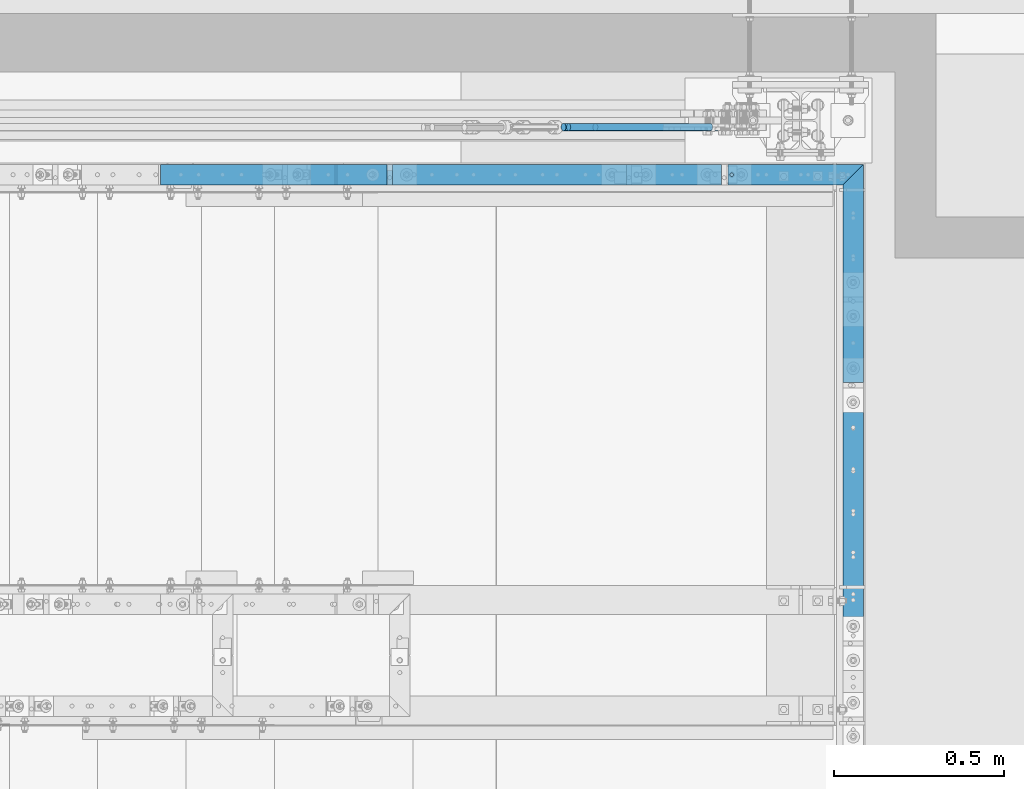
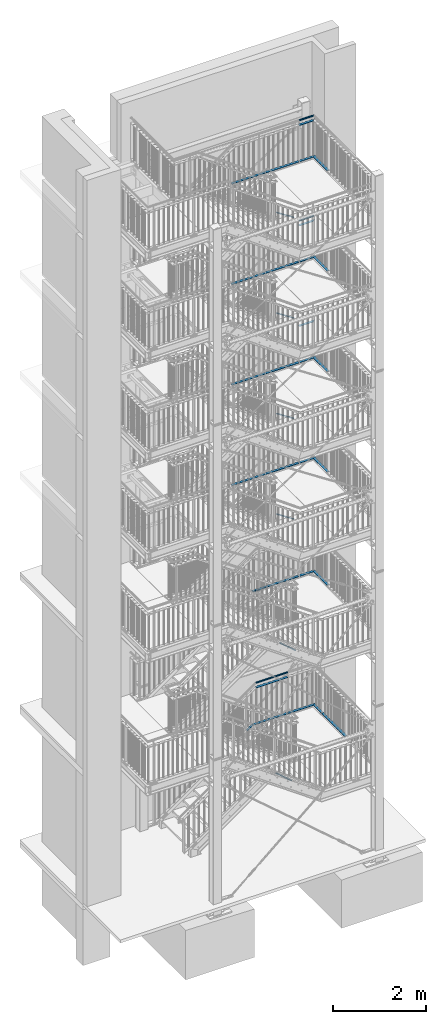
# One storey, part 140 of 817: 31 beams, 7 members, 33 openings.
"""IFC2X3 building model written with IfcOpenShell, lengths in millimetres."""

from ifc_helpers import new_model, entity, si_unit, converted_unit, frame, origin, origin_with_axes, origin_2d, origin_2d_with_axis, place, context, project, spatial, polyline, rectangle, circle, hollow_circle, outline, extrude, clip, halfspace, material, element, save


model = new_model("IFC2X3")

# Units and contexts
model_context = context("Model", 3, precision=1e-09, world=origin_with_axes())
ifc_project = project(units=[si_unit("LENGTHUNIT", "METRE", prefix="MILLI"), si_unit("AREAUNIT", "SQUARE_METRE"), si_unit("VOLUMEUNIT", "CUBIC_METRE"), converted_unit("PLANEANGLEUNIT", "DEGREE", entity("IfcPlaneAngleMeasure", 0.01745329), si_unit("PLANEANGLEUNIT", "RADIAN"), dimensions=[0, 0, 0, 0, 0, 0, 0])], contexts=[model_context])

# Site, building, storey
site_placement = place(None, origin_with_axes())
site = spatial("IfcSite", under=ifc_project, at=site_placement, Name="Cnopf'sche Kinderklinik", CompositionType="ELEMENT")
building_placement = place(site_placement, origin_with_axes())
building = spatial("IfcBuilding", under=site, at=building_placement, Name="Struktur 1", CompositionType="ELEMENT")
storey_placement = place(building_placement, origin_with_axes())
storey = spatial("IfcBuildingStorey", under=building, at=storey_placement, Name="Default Storey", CompositionType="ELEMENT", Elevation=0.0)

# Members
ifc_material = material(Name="S235JR")
for number, where, z_axis, x_axis in (
    (1, (8640.321727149, 7496.736971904, 3708.074383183), (-0.755906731, 0.0, 0.654679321), (-0.654679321, 0.0, -0.755906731)),
    (2, (8601.628734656, 7496.736971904, 7158.990731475), (-0.83600607, 0.0, 0.548720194), (-0.548720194, 0.0, -0.83600607)),
    (3, (8601.477156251, 7496.736971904, 9790.759502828), (-0.83648421, 0.0, 0.547991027), (-0.547991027, 0.0, -0.83648421)),
    (4, (8601.719606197, 7496.736971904, 12418.129336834), (-0.835719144, 0.0, 0.549157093), (-0.549157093, 0.0, -0.835719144)),
    (5, (8601.264681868, 7496.736971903, 15052.435320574), (-0.837153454, 0.0, 0.546968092), (-0.546968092, 0.0, -0.837153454)),
    (6, (8547.510615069, 7496.736971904, 334.785043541), (-0.757867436, 0.0, 0.652408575), (-0.652408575, 0.0, -0.757867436)),
):
    element("IfcMember", number, at=place(None, frame(where, z_axis=z_axis, x_axis=x_axis)), inside=storey, material=ifc_material, Name="-", ObjectType="-", context=model_context, shape_type="SweptSolid", body=[
        extrude(circle(Radius=11.0, at=origin_2d()), origin(), (0.0, 0.0, 1.0), 500.0),
    ])
member_placement = place(None, frame((7358.266977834, 7356.736971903, 2145.321492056), z_axis=(-0.814635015, 0.0, -0.579973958), x_axis=(0.579973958, 0.0, -0.814635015)))
element("IfcMember", 7, at=member_placement, inside=storey, material=ifc_material, Name="Railing_Kneerail_Stair#3", ObjectType="Railing_Kneerail_Stair#3", context=model_context, shape_type="SweptSolid", body=[
    extrude(rectangle(XDim=10.0, YDim=60.0, at=origin_2d()), origin(), (0.0, 0.0, -1.0), 172.084130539),
])

# Beam, opening
beam_1_placement = place(None, frame((7501.352605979, 7356.736971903, 2246.0526312), z_axis=(-1.0, 0.0, 0.0), x_axis=(0.0, 0.0, -1.0)))
beam_1 = element("IfcBeam", 8, at=beam_1_placement, inside=storey, material=ifc_material, Name="Railing_Kneerail_Landing#4", ObjectType="Railing_Kneerail_Landing#4", context=model_context, shape_type="SweptSolid", body=[
    extrude(rectangle(XDim=10.0, YDim=60.0, at=origin_2d()), origin(), (0.0, 0.0, -1.0), 859.59161979),
])
opening_1_placement = place(beam_1_placement, frame((60.0, 0.0, -859.59161979), z_axis=(-1.0, 0.0, 0.0), x_axis=(0.0, 0.0, -1.0)))
element("IfcOpeningElement", 9, at=opening_1_placement, cuts=beam_1, ObjectType="Opening", context=model_context, shape_type="SweptSolid", body=[
    extrude(outline(polyline([(7.501, -30.001), (7.501, 30.001), (-7.501, 30.001), (-7.501, -30.001), (7.501, -30.001)])), origin(), (0.0, 0.0, 1.0), 120.0),
])

beam_2_placement = place(None, frame((8371.444225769, 7356.736971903, 2246.0526312), z_axis=(-1.0, 0.0, 0.0), x_axis=(0.0, 0.0, -1.0)))
beam_2 = element("IfcBeam", 10, at=beam_2_placement, inside=storey, material=ifc_material, Name="Railing_Kneerail_Landing#5", ObjectType="Railing_Kneerail_Landing#5", context=model_context, shape_type="Clipping", body=[
    clip(extrude(rectangle(XDim=10.0, YDim=60.0, at=origin_2d()), origin(), (0.0, 0.0, -1.0), 693.28080356), halfspace(frame((2246.0526312, 8189.224480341, 7538.95671733), z_axis=(0.0, -0.707106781, 0.707106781), x_axis=(0.0, 0.707106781, 0.707106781)), True)),
])
opening_2_placement = place(beam_2_placement, frame((5.5, 0.0, -11.999999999), z_axis=(-1.0, 0.0, 0.0), x_axis=(0.0, 0.0, -1.0)))
element("IfcOpeningElement", 11, at=opening_2_placement, cuts=beam_2, ObjectType="Opening", context=model_context, shape_type="SweptSolid", body=[
    extrude(circle(Radius=5.001, at=origin_2d_with_axis()), origin(), (0.0, 0.0, 1.0), 11.0),
])

beam_3_placement = place(None, frame((9021.713402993, 7399.748598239, 2246.0526312), z_axis=(0.0, 1.0, 0.0), x_axis=(0.0, 0.0, -1.0)))
beam_3 = element("IfcBeam", 12, at=beam_3_placement, inside=storey, material=ifc_material, Name="Railing_Kneerail_Landing#6", ObjectType="Railing_Kneerail_Landing#6", context=model_context, shape_type="Clipping", body=[
    clip(extrude(rectangle(XDim=10.0, YDim=60.0, at=origin_2d()), origin(), (0.0, 0.0, -1.0), 410.319566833), halfspace(frame((2246.0526312, 8189.224480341, -8232.23752089), z_axis=(0.0, -0.707106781, -0.707106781), x_axis=(0.0, -0.707106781, 0.707106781)), True)),
])
opening_3_placement = place(beam_3_placement, frame((60.0, 0.0, -410.319566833), z_axis=(-1.0, 0.0, 0.0), x_axis=(0.0, -1.0, 0.0)))
element("IfcOpeningElement", 13, at=opening_3_placement, cuts=beam_3, ObjectType="Opening", context=model_context, shape_type="SweptSolid", body=[
    extrude(outline(polyline([(-30.001, -7.501), (30.001, -7.501), (30.001, 7.501), (-30.001, 7.501), (-30.001, -7.501)])), origin(), (0.0, 0.0, 1.0), 120.0),
])

# Beam, openings
beam_4_placement = place(None, frame((9021.713402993, 6989.429031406, 2246.0526312), z_axis=(0.0, 1.0, 0.0), x_axis=(0.0, 0.0, -1.0)))
beam_4 = element("IfcBeam", 14, at=beam_4_placement, inside=storey, material=ifc_material, Name="Railing_Kneerail_Landing#7", ObjectType="Railing_Kneerail_Landing#7", context=model_context, shape_type="SweptSolid", body=[
    extrude(rectangle(XDim=10.0, YDim=60.0, at=origin_2d()), origin(), (0.0, 0.0, -1.0), 1013.077117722),
])
opening_4_placement = place(beam_4_placement, frame((60.0, 0.0, -1013.077117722), z_axis=(-1.0, 0.0, 0.0), x_axis=(0.0, -1.0, 0.0)))
element("IfcOpeningElement", 15, at=opening_4_placement, cuts=beam_4, ObjectType="Opening", context=model_context, shape_type="SweptSolid", body=[
    extrude(outline(polyline([(-30.001, 1005.576117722), (30.001, 1005.576117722), (30.001, 1020.578117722), (-30.001, 1020.578117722), (-30.001, 1005.576117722)])), origin(), (0.0, 0.0, 1.0), 120.0),
])
opening_5_placement = place(beam_4_placement, frame((60.0, 0.0, -1013.077117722), z_axis=(-1.0, 0.0, 0.0), x_axis=(0.0, -1.0, 0.0)))
element("IfcOpeningElement", 16, at=opening_5_placement, cuts=beam_4, ObjectType="Opening", context=model_context, shape_type="SweptSolid", body=[
    extrude(outline(polyline([(-30.001, -7.501), (30.001, -7.501), (30.001, 7.501), (-30.001, 7.501), (-30.001, -7.501)])), origin(), (0.0, 0.0, 1.0), 120.0),
])

# Beam, opening
beam_5_placement = place(None, frame((7500.836877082, 7356.736971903, 5739.8947367), z_axis=(-1.0, 0.0, 0.0), x_axis=(0.0, 0.0, -1.0)))
beam_5 = element("IfcBeam", 17, at=beam_5_placement, inside=storey, material=ifc_material, Name="Railing_Kneerail_Landing#5", ObjectType="Railing_Kneerail_Landing#5", context=model_context, shape_type="SweptSolid", body=[
    extrude(rectangle(XDim=10.0, YDim=60.0, at=origin_2d()), origin(), (0.0, 0.0, -1.0), 155.876954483),
])
opening_6_placement = place(beam_5_placement, frame((60.0, 0.0, -155.876954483), z_axis=(-1.0, 0.0, 0.0), x_axis=(0.0, 0.0, -1.0)))
element("IfcOpeningElement", 18, at=opening_6_placement, cuts=beam_5, ObjectType="Opening", context=model_context, shape_type="SweptSolid", body=[
    extrude(outline(polyline([(7.501, -30.001), (7.501, 30.001), (-7.501, 30.001), (-7.501, -30.001), (7.501, -30.001)])), origin(), (0.0, 0.0, 1.0), 120.0),
])

# Beam, openings
beam_6_placement = place(None, frame((7656.713831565, 7356.736971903, 5739.8947367), z_axis=(-1.0, 0.0, 0.0), x_axis=(0.0, 0.0, -1.0)))
beam_6 = element("IfcBeam", 19, at=beam_6_placement, inside=storey, material=ifc_material, Name="Railing_Kneerail_Landing#6", ObjectType="Railing_Kneerail_Landing#6", context=model_context, shape_type="SweptSolid", body=[
    extrude(rectangle(XDim=10.0, YDim=60.0, at=origin_2d()), origin(), (0.0, 0.0, -1.0), 985.000142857),
])
opening_7_placement = place(beam_6_placement, frame((60.0, 0.0, -985.000142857), z_axis=(-1.0, 0.0, 0.0), x_axis=(0.0, 0.0, -1.0)))
element("IfcOpeningElement", 20, at=opening_7_placement, cuts=beam_6, ObjectType="Opening", context=model_context, shape_type="SweptSolid", body=[
    extrude(outline(polyline([(-977.499142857, -30.001), (-977.499142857, 30.001), (-992.501142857, 30.001), (-992.501142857, -30.001), (-977.499142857, -30.001)])), origin(), (0.0, 0.0, 1.0), 120.0),
])
opening_8_placement = place(beam_6_placement, frame((60.0, 0.0, -985.000142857), z_axis=(-1.0, 0.0, 0.0), x_axis=(0.0, 0.0, -1.0)))
element("IfcOpeningElement", 21, at=opening_8_placement, cuts=beam_6, ObjectType="Opening", context=model_context, shape_type="SweptSolid", body=[
    extrude(outline(polyline([(7.501, -30.001), (7.501, 30.001), (-7.501, 30.001), (-7.501, -30.001), (7.501, -30.001)])), origin(), (0.0, 0.0, 1.0), 120.0),
])

# Beam, opening
beam_7_placement = place(None, frame((8652.213974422, 7356.736971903, 5739.8947367), z_axis=(-1.0, 0.0, 0.0), x_axis=(0.0, 0.0, -1.0)))
beam_7 = element("IfcBeam", 22, at=beam_7_placement, inside=storey, material=ifc_material, Name="Railing_Kneerail_Landing#7", ObjectType="Railing_Kneerail_Landing#7", context=model_context, shape_type="Clipping", body=[
    clip(extrude(rectangle(XDim=10.0, YDim=60.0, at=origin_2d()), origin(), (0.0, 0.0, -1.0), 412.511054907), halfspace(frame((5739.8947367, 8189.224480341, 7819.726465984), z_axis=(0.0, -0.707106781, 0.707106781), x_axis=(0.0, 0.707106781, 0.707106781)), True)),
])
opening_9_placement = place(beam_7_placement, frame((5.5, 0.0, -11.999999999), z_axis=(-1.0, 0.0, 0.0), x_axis=(0.0, 0.0, -1.0)))
element("IfcOpeningElement", 23, at=opening_9_placement, cuts=beam_7, ObjectType="Opening", context=model_context, shape_type="SweptSolid", body=[
    extrude(circle(Radius=5.001, at=origin_2d_with_axis()), origin(), (0.0, 0.0, 1.0), 11.0),
])

beam_8_placement = place(None, frame((9021.713402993, 7399.748598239, 5739.8947367), z_axis=(0.0, 1.0, 0.0), x_axis=(0.0, 0.0, -1.0)))
beam_8 = element("IfcBeam", 24, at=beam_8_placement, inside=storey, material=ifc_material, Name="Railing_Kneerail_Landing#8", ObjectType="Railing_Kneerail_Landing#8", context=model_context, shape_type="Clipping", body=[
    clip(extrude(rectangle(XDim=10.0, YDim=60.0, at=origin_2d()), origin(), (0.0, 0.0, -1.0), 663.012340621), halfspace(frame((5739.8947367, 8189.224480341, -8232.23752089), z_axis=(0.0, -0.707106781, -0.707106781), x_axis=(0.0, -0.707106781, 0.707106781)), True)),
])
opening_10_placement = place(beam_8_placement, frame((60.0, 0.0, -663.012340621), z_axis=(-1.0, 0.0, 0.0), x_axis=(0.0, -1.0, 0.0)))
element("IfcOpeningElement", 25, at=opening_10_placement, cuts=beam_8, ObjectType="Opening", context=model_context, shape_type="SweptSolid", body=[
    extrude(outline(polyline([(-30.001, -7.501), (30.001, -7.501), (30.001, 7.501), (-30.001, 7.501), (-30.001, -7.501)])), origin(), (0.0, 0.0, 1.0), 120.0),
])

beam_9_placement = place(None, frame((6981.974400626, 7356.736971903, 8701.0), z_axis=(-1.0, 0.0, 0.0), x_axis=(0.0, 0.0, -1.0)))
beam_9 = element("IfcBeam", 26, at=beam_9_placement, inside=storey, material=ifc_material, Name="Railing_Kneerail_Landing#5", ObjectType="Railing_Kneerail_Landing#5", context=model_context, shape_type="SweptSolid", body=[
    extrude(rectangle(XDim=10.0, YDim=60.0, at=origin_2d()), origin(), (0.0, 0.0, -1.0), 674.739430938),
])
opening_11_placement = place(beam_9_placement, frame((60.0, 0.0, -674.739430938), z_axis=(-1.0, 0.0, 0.0), x_axis=(0.0, 0.0, -1.0)))
element("IfcOpeningElement", 27, at=opening_11_placement, cuts=beam_9, ObjectType="Opening", context=model_context, shape_type="SweptSolid", body=[
    extrude(outline(polyline([(7.501, -30.001), (7.501, 30.001), (-7.501, 30.001), (-7.501, -30.001), (7.501, -30.001)])), origin(), (0.0, 0.0, 1.0), 120.0),
])

# Beam, openings
beam_10_placement = place(None, frame((7656.713831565, 7356.736971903, 8701.0), z_axis=(-1.0, 0.0, 0.0), x_axis=(0.0, 0.0, -1.0)))
beam_10 = element("IfcBeam", 28, at=beam_10_placement, inside=storey, material=ifc_material, Name="Railing_Kneerail_Landing#6", ObjectType="Railing_Kneerail_Landing#6", context=model_context, shape_type="SweptSolid", body=[
    extrude(rectangle(XDim=10.0, YDim=60.0, at=origin_2d()), origin(), (0.0, 0.0, -1.0), 985.000142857),
])
opening_12_placement = place(beam_10_placement, frame((60.0, 0.0, -985.000142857), z_axis=(-1.0, 0.0, 0.0), x_axis=(0.0, 0.0, -1.0)))
element("IfcOpeningElement", 29, at=opening_12_placement, cuts=beam_10, ObjectType="Opening", context=model_context, shape_type="SweptSolid", body=[
    extrude(outline(polyline([(-977.499142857, -30.001), (-977.499142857, 30.001), (-992.501142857, 30.001), (-992.501142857, -30.001), (-977.499142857, -30.001)])), origin(), (0.0, 0.0, 1.0), 120.0),
])
opening_13_placement = place(beam_10_placement, frame((60.0, 0.0, -985.000142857), z_axis=(-1.0, 0.0, 0.0), x_axis=(0.0, 0.0, -1.0)))
element("IfcOpeningElement", 30, at=opening_13_placement, cuts=beam_10, ObjectType="Opening", context=model_context, shape_type="SweptSolid", body=[
    extrude(outline(polyline([(7.501, -30.001), (7.501, 30.001), (-7.501, 30.001), (-7.501, -30.001), (7.501, -30.001)])), origin(), (0.0, 0.0, 1.0), 120.0),
])

# Beam, opening
beam_11_placement = place(None, frame((8652.213974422, 7356.736971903, 8701.0), z_axis=(-1.0, 0.0, 0.0), x_axis=(0.0, 0.0, -1.0)))
beam_11 = element("IfcBeam", 31, at=beam_11_placement, inside=storey, material=ifc_material, Name="Railing_Kneerail_Landing#7", ObjectType="Railing_Kneerail_Landing#7", context=model_context, shape_type="Clipping", body=[
    clip(extrude(rectangle(XDim=10.0, YDim=60.0, at=origin_2d()), origin(), (0.0, 0.0, -1.0), 412.511054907), halfspace(frame((8701.0, 8189.224480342, 7819.726465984), z_axis=(0.0, -0.707106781, 0.707106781), x_axis=(0.0, 0.707106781, 0.707106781)), True)),
])
opening_14_placement = place(beam_11_placement, frame((5.5, 0.0, -11.999999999), z_axis=(-1.0, 0.0, 0.0), x_axis=(0.0, 0.0, -1.0)))
element("IfcOpeningElement", 32, at=opening_14_placement, cuts=beam_11, ObjectType="Opening", context=model_context, shape_type="SweptSolid", body=[
    extrude(circle(Radius=5.001, at=origin_2d_with_axis()), origin(), (0.0, 0.0, 1.0), 11.0),
])

beam_12_placement = place(None, frame((9021.713402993, 7399.748598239, 8701.0), z_axis=(0.0, 1.0, 0.0), x_axis=(0.0, 0.0, -1.0)))
beam_12 = element("IfcBeam", 33, at=beam_12_placement, inside=storey, material=ifc_material, Name="Railing_Kneerail_Landing#8", ObjectType="Railing_Kneerail_Landing#8", context=model_context, shape_type="Clipping", body=[
    clip(extrude(rectangle(XDim=10.0, YDim=60.0, at=origin_2d()), origin(), (0.0, 0.0, -1.0), 663.012340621), halfspace(frame((8701.0, 8189.224480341, -8232.23752089), z_axis=(0.0, -0.707106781, -0.707106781), x_axis=(0.0, -0.707106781, 0.707106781)), True)),
])
opening_15_placement = place(beam_12_placement, frame((60.0, 0.0, -663.012340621), z_axis=(-1.0, 0.0, 0.0), x_axis=(0.0, -1.0, 0.0)))
element("IfcOpeningElement", 34, at=opening_15_placement, cuts=beam_12, ObjectType="Opening", context=model_context, shape_type="SweptSolid", body=[
    extrude(outline(polyline([(-30.001, -7.501), (30.001, -7.501), (30.001, 7.501), (-30.001, 7.501), (-30.001, -7.501)])), origin(), (0.0, 0.0, 1.0), 120.0),
])

beam_13_placement = place(None, frame((6981.89902139, 7356.736971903, 11330.5000003), z_axis=(-1.0, 0.0, 0.0), x_axis=(0.0, 0.0, -1.0)))
beam_13 = element("IfcBeam", 35, at=beam_13_placement, inside=storey, material=ifc_material, Name="Railing_Kneerail_Landing#5", ObjectType="Railing_Kneerail_Landing#5", context=model_context, shape_type="SweptSolid", body=[
    extrude(rectangle(XDim=10.0, YDim=60.0, at=origin_2d()), origin(), (0.0, 0.0, -1.0), 674.814810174),
])
opening_16_placement = place(beam_13_placement, frame((60.0, 0.0, -674.814810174), z_axis=(-1.0, 0.0, 0.0), x_axis=(0.0, 0.0, -1.0)))
element("IfcOpeningElement", 36, at=opening_16_placement, cuts=beam_13, ObjectType="Opening", context=model_context, shape_type="SweptSolid", body=[
    extrude(outline(polyline([(7.501, -30.001), (7.501, 30.001), (-7.501, 30.001), (-7.501, -30.001), (7.501, -30.001)])), origin(), (0.0, 0.0, 1.0), 120.0),
])

# Beam, openings
beam_14_placement = place(None, frame((7656.713831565, 7356.736971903, 11330.5000003), z_axis=(-1.0, 0.0, 0.0), x_axis=(0.0, 0.0, -1.0)))
beam_14 = element("IfcBeam", 37, at=beam_14_placement, inside=storey, material=ifc_material, Name="Railing_Kneerail_Landing#6", ObjectType="Railing_Kneerail_Landing#6", context=model_context, shape_type="SweptSolid", body=[
    extrude(rectangle(XDim=10.0, YDim=60.0, at=origin_2d()), origin(), (0.0, 0.0, -1.0), 985.000142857),
])
opening_17_placement = place(beam_14_placement, frame((60.0, 0.0, -985.000142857), z_axis=(-1.0, 0.0, 0.0), x_axis=(0.0, 0.0, -1.0)))
element("IfcOpeningElement", 38, at=opening_17_placement, cuts=beam_14, ObjectType="Opening", context=model_context, shape_type="SweptSolid", body=[
    extrude(outline(polyline([(-977.499142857, -30.001), (-977.499142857, 30.001), (-992.501142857, 30.001), (-992.501142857, -30.001), (-977.499142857, -30.001)])), origin(), (0.0, 0.0, 1.0), 120.0),
])
opening_18_placement = place(beam_14_placement, frame((60.0, 0.0, -985.000142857), z_axis=(-1.0, 0.0, 0.0), x_axis=(0.0, 0.0, -1.0)))
element("IfcOpeningElement", 39, at=opening_18_placement, cuts=beam_14, ObjectType="Opening", context=model_context, shape_type="SweptSolid", body=[
    extrude(outline(polyline([(7.501, -30.001), (7.501, 30.001), (-7.501, 30.001), (-7.501, -30.001), (7.501, -30.001)])), origin(), (0.0, 0.0, 1.0), 120.0),
])

# Beam, opening
beam_15_placement = place(None, frame((8652.213974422, 7356.736971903, 11330.5000003), z_axis=(-1.0, 0.0, 0.0), x_axis=(0.0, 0.0, -1.0)))
beam_15 = element("IfcBeam", 40, at=beam_15_placement, inside=storey, material=ifc_material, Name="Railing_Kneerail_Landing#7", ObjectType="Railing_Kneerail_Landing#7", context=model_context, shape_type="Clipping", body=[
    clip(extrude(rectangle(XDim=10.0, YDim=60.0, at=origin_2d()), origin(), (0.0, 0.0, -1.0), 412.511054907), halfspace(frame((11330.5000003, 8189.224480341, 7819.726465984), z_axis=(0.0, -0.707106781, 0.707106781), x_axis=(0.0, 0.707106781, 0.707106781)), True)),
])
opening_19_placement = place(beam_15_placement, frame((5.5, 0.0, -11.999999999), z_axis=(-1.0, 0.0, 0.0), x_axis=(0.0, 0.0, -1.0)))
element("IfcOpeningElement", 41, at=opening_19_placement, cuts=beam_15, ObjectType="Opening", context=model_context, shape_type="SweptSolid", body=[
    extrude(circle(Radius=5.001, at=origin_2d_with_axis()), origin(), (0.0, 0.0, 1.0), 11.0),
])

beam_16_placement = place(None, frame((9021.713402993, 7399.748598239, 11330.5000003), z_axis=(0.0, 1.0, 0.0), x_axis=(0.0, 0.0, -1.0)))
beam_16 = element("IfcBeam", 42, at=beam_16_placement, inside=storey, material=ifc_material, Name="Railing_Kneerail_Landing#8", ObjectType="Railing_Kneerail_Landing#8", context=model_context, shape_type="Clipping", body=[
    clip(extrude(rectangle(XDim=10.0, YDim=60.0, at=origin_2d()), origin(), (0.0, 0.0, -1.0), 663.012340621), halfspace(frame((11330.5000003, 8189.224480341, -8232.23752089), z_axis=(0.0, -0.707106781, -0.707106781), x_axis=(0.0, -0.707106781, 0.707106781)), True)),
])
opening_20_placement = place(beam_16_placement, frame((60.0, 0.0, -663.012340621), z_axis=(-1.0, 0.0, 0.0), x_axis=(0.0, -1.0, 0.0)))
element("IfcOpeningElement", 43, at=opening_20_placement, cuts=beam_16, ObjectType="Opening", context=model_context, shape_type="SweptSolid", body=[
    extrude(outline(polyline([(-30.001, -7.501), (30.001, -7.501), (30.001, 7.501), (-30.001, 7.501), (-30.001, -7.501)])), origin(), (0.0, 0.0, 1.0), 120.0),
])

beam_17_placement = place(None, frame((6982.019450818, 7356.736971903, 13961.5000001), z_axis=(-1.0, 0.0, 0.0), x_axis=(0.0, 0.0, -1.0)))
beam_17 = element("IfcBeam", 44, at=beam_17_placement, inside=storey, material=ifc_material, Name="Railing_Kneerail_Landing#5", ObjectType="Railing_Kneerail_Landing#5", context=model_context, shape_type="SweptSolid", body=[
    extrude(rectangle(XDim=10.0, YDim=60.0, at=origin_2d()), origin(), (0.0, 0.0, -1.0), 674.694380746),
])
opening_21_placement = place(beam_17_placement, frame((60.0, 0.0, -674.694380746), z_axis=(-1.0, 0.0, 0.0), x_axis=(0.0, 0.0, -1.0)))
element("IfcOpeningElement", 45, at=opening_21_placement, cuts=beam_17, ObjectType="Opening", context=model_context, shape_type="SweptSolid", body=[
    extrude(outline(polyline([(7.501, -30.001), (7.501, 30.001), (-7.501, 30.001), (-7.501, -30.001), (7.501, -30.001)])), origin(), (0.0, 0.0, 1.0), 120.0),
])

# Beam, openings
beam_18_placement = place(None, frame((7656.713831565, 7356.736971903, 13961.5000001), z_axis=(-1.0, 0.0, 0.0), x_axis=(0.0, 0.0, -1.0)))
beam_18 = element("IfcBeam", 46, at=beam_18_placement, inside=storey, material=ifc_material, Name="Railing_Kneerail_Landing#6", ObjectType="Railing_Kneerail_Landing#6", context=model_context, shape_type="SweptSolid", body=[
    extrude(rectangle(XDim=10.0, YDim=60.0, at=origin_2d()), origin(), (0.0, 0.0, -1.0), 985.000142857),
])
opening_22_placement = place(beam_18_placement, frame((60.0, 0.0, -985.000142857), z_axis=(-1.0, 0.0, 0.0), x_axis=(0.0, 0.0, -1.0)))
element("IfcOpeningElement", 47, at=opening_22_placement, cuts=beam_18, ObjectType="Opening", context=model_context, shape_type="SweptSolid", body=[
    extrude(outline(polyline([(-977.499142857, -30.001), (-977.499142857, 30.001), (-992.501142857, 30.001), (-992.501142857, -30.001), (-977.499142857, -30.001)])), origin(), (0.0, 0.0, 1.0), 120.0),
])
opening_23_placement = place(beam_18_placement, frame((60.0, 0.0, -985.000142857), z_axis=(-1.0, 0.0, 0.0), x_axis=(0.0, 0.0, -1.0)))
element("IfcOpeningElement", 48, at=opening_23_placement, cuts=beam_18, ObjectType="Opening", context=model_context, shape_type="SweptSolid", body=[
    extrude(outline(polyline([(7.501, -30.001), (7.501, 30.001), (-7.501, 30.001), (-7.501, -30.001), (7.501, -30.001)])), origin(), (0.0, 0.0, 1.0), 120.0),
])

# Beam, opening
beam_19_placement = place(None, frame((8652.213974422, 7356.736971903, 13961.5000001), z_axis=(-1.0, 0.0, 0.0), x_axis=(0.0, 0.0, -1.0)))
beam_19 = element("IfcBeam", 49, at=beam_19_placement, inside=storey, material=ifc_material, Name="Railing_Kneerail_Landing#7", ObjectType="Railing_Kneerail_Landing#7", context=model_context, shape_type="Clipping", body=[
    clip(extrude(rectangle(XDim=10.0, YDim=60.0, at=origin_2d()), origin(), (0.0, 0.0, -1.0), 412.511054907), halfspace(frame((13961.5000001, 8189.224480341, 7819.726465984), z_axis=(0.0, -0.707106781, 0.707106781), x_axis=(0.0, 0.707106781, 0.707106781)), True)),
])
opening_24_placement = place(beam_19_placement, frame((5.5, 0.0, -11.999999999), z_axis=(-1.0, 0.0, 0.0), x_axis=(0.0, 0.0, -1.0)))
element("IfcOpeningElement", 50, at=opening_24_placement, cuts=beam_19, ObjectType="Opening", context=model_context, shape_type="SweptSolid", body=[
    extrude(circle(Radius=5.001, at=origin_2d_with_axis()), origin(), (0.0, 0.0, 1.0), 11.0),
])

beam_20_placement = place(None, frame((9021.713402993, 7399.748598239, 13961.5000001), z_axis=(0.0, 1.0, 0.0), x_axis=(0.0, 0.0, -1.0)))
beam_20 = element("IfcBeam", 51, at=beam_20_placement, inside=storey, material=ifc_material, Name="Railing_Kneerail_Landing#8", ObjectType="Railing_Kneerail_Landing#8", context=model_context, shape_type="Clipping", body=[
    clip(extrude(rectangle(XDim=10.0, YDim=60.0, at=origin_2d()), origin(), (0.0, 0.0, -1.0), 663.012340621), halfspace(frame((13961.5000001, 8189.224480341, -8232.23752089), z_axis=(0.0, -0.707106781, -0.707106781), x_axis=(0.0, -0.707106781, 0.707106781)), True)),
])
opening_25_placement = place(beam_20_placement, frame((60.0, 0.0, -663.012340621), z_axis=(-1.0, 0.0, 0.0), x_axis=(0.0, -1.0, 0.0)))
element("IfcOpeningElement", 52, at=opening_25_placement, cuts=beam_20, ObjectType="Opening", context=model_context, shape_type="SweptSolid", body=[
    extrude(outline(polyline([(-30.001, -7.501), (30.001, -7.501), (30.001, 7.501), (-30.001, 7.501), (-30.001, -7.501)])), origin(), (0.0, 0.0, 1.0), 120.0),
])

beam_21_placement = place(None, frame((6981.792867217, 7356.736971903, 16589.0000003), z_axis=(-1.0, 0.0, 0.0), x_axis=(0.0, 0.0, -1.0)))
beam_21 = element("IfcBeam", 53, at=beam_21_placement, inside=storey, material=ifc_material, Name="Railing_Kneerail_Landing#5", ObjectType="Railing_Kneerail_Landing#5", context=model_context, shape_type="SweptSolid", body=[
    extrude(rectangle(XDim=10.0, YDim=60.0, at=origin_2d()), origin(), (0.0, 0.0, -1.0), 674.920964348),
])
opening_26_placement = place(beam_21_placement, frame((60.0, 0.0, -674.920964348), z_axis=(-1.0, 0.0, 0.0), x_axis=(0.0, 0.0, -1.0)))
element("IfcOpeningElement", 54, at=opening_26_placement, cuts=beam_21, ObjectType="Opening", context=model_context, shape_type="SweptSolid", body=[
    extrude(outline(polyline([(7.501, -30.001), (7.501, 30.001), (-7.501, 30.001), (-7.501, -30.001), (7.501, -30.001)])), origin(), (0.0, 0.0, 1.0), 120.0),
])

# Beam, openings
beam_22_placement = place(None, frame((7656.713831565, 7356.736971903, 16589.0000003), z_axis=(-1.0, 0.0, 0.0), x_axis=(0.0, 0.0, -1.0)))
beam_22 = element("IfcBeam", 55, at=beam_22_placement, inside=storey, material=ifc_material, Name="Railing_Kneerail_Landing#6", ObjectType="Railing_Kneerail_Landing#6", context=model_context, shape_type="SweptSolid", body=[
    extrude(rectangle(XDim=10.0, YDim=60.0, at=origin_2d()), origin(), (0.0, 0.0, -1.0), 985.000142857),
])
opening_27_placement = place(beam_22_placement, frame((60.0, 0.0, -985.000142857), z_axis=(-1.0, 0.0, 0.0), x_axis=(0.0, 0.0, -1.0)))
element("IfcOpeningElement", 56, at=opening_27_placement, cuts=beam_22, ObjectType="Opening", context=model_context, shape_type="SweptSolid", body=[
    extrude(outline(polyline([(-977.499142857, -30.001), (-977.499142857, 30.001), (-992.501142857, 30.001), (-992.501142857, -30.001), (-977.499142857, -30.001)])), origin(), (0.0, 0.0, 1.0), 120.0),
])
opening_28_placement = place(beam_22_placement, frame((60.0, 0.0, -985.000142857), z_axis=(-1.0, 0.0, 0.0), x_axis=(0.0, 0.0, -1.0)))
element("IfcOpeningElement", 57, at=opening_28_placement, cuts=beam_22, ObjectType="Opening", context=model_context, shape_type="SweptSolid", body=[
    extrude(outline(polyline([(7.501, -30.001), (7.501, 30.001), (-7.501, 30.001), (-7.501, -30.001), (7.501, -30.001)])), origin(), (0.0, 0.0, 1.0), 120.0),
])

# Beam, opening
beam_23_placement = place(None, frame((8652.213974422, 7356.736971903, 16589.0000003), z_axis=(-1.0, 0.0, 0.0), x_axis=(0.0, 0.0, -1.0)))
beam_23 = element("IfcBeam", 58, at=beam_23_placement, inside=storey, material=ifc_material, Name="Railing_Kneerail_Landing#7", ObjectType="Railing_Kneerail_Landing#7", context=model_context, shape_type="Clipping", body=[
    clip(extrude(rectangle(XDim=10.0, YDim=60.0, at=origin_2d()), origin(), (0.0, 0.0, -1.0), 412.511054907), halfspace(frame((16589.0000003, 8189.224480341, 7819.726465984), z_axis=(0.0, -0.707106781, 0.707106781), x_axis=(0.0, 0.707106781, 0.707106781)), True)),
])
opening_29_placement = place(beam_23_placement, frame((5.5, 0.0, -11.999999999), z_axis=(-1.0, 0.0, 0.0), x_axis=(0.0, 0.0, -1.0)))
element("IfcOpeningElement", 59, at=opening_29_placement, cuts=beam_23, ObjectType="Opening", context=model_context, shape_type="SweptSolid", body=[
    extrude(circle(Radius=5.001, at=origin_2d_with_axis()), origin(), (0.0, 0.0, 1.0), 11.0),
])

beam_24_placement = place(None, frame((9021.713402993, 7399.748598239, 16589.0000003), z_axis=(0.0, 1.0, 0.0), x_axis=(0.0, 0.0, -1.0)))
beam_24 = element("IfcBeam", 60, at=beam_24_placement, inside=storey, material=ifc_material, Name="Railing_Kneerail_Landing#8", ObjectType="Railing_Kneerail_Landing#8", context=model_context, shape_type="Clipping", body=[
    clip(extrude(rectangle(XDim=10.0, YDim=60.0, at=origin_2d()), origin(), (0.0, 0.0, -1.0), 663.012340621), halfspace(frame((16589.0000003, 8189.224480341, -8232.23752089), z_axis=(0.0, -0.707106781, -0.707106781), x_axis=(0.0, -0.707106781, 0.707106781)), True)),
])
opening_30_placement = place(beam_24_placement, frame((60.0, 0.0, -663.012340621), z_axis=(-1.0, 0.0, 0.0), x_axis=(0.0, -1.0, 0.0)))
element("IfcOpeningElement", 61, at=opening_30_placement, cuts=beam_24, ObjectType="Opening", context=model_context, shape_type="SweptSolid", body=[
    extrude(outline(polyline([(-30.001, -7.501), (30.001, -7.501), (30.001, 7.501), (-30.001, 7.501), (-30.001, -7.501)])), origin(), (0.0, 0.0, 1.0), 120.0),
])

beam_25_placement = place(None, frame((8652.213974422, 7356.736971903, 17537.8000003), z_axis=(-1.0, 0.0, 0.0), x_axis=(0.0, 0.0, -1.0)))
beam_25 = element("IfcBeam", 62, at=beam_25_placement, inside=storey, material=ifc_material, Name="Railing_Kneerail_Landing#1005", ObjectType="Railing_Kneerail_Landing#1005", context=model_context, shape_type="Clipping", body=[
    clip(extrude(rectangle(XDim=10.0, YDim=60.0, at=origin_2d()), origin(), (0.0, 0.0, -1.0), 412.511054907), halfspace(frame((17537.8000003, 8189.224480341, 7819.726465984), z_axis=(0.0, -0.707106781, 0.707106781), x_axis=(0.0, 0.707106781, 0.707106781)), True)),
])
opening_31_placement = place(beam_25_placement, frame((5.5, 0.0, -11.999999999), z_axis=(-1.0, 0.0, 0.0), x_axis=(0.0, 0.0, -1.0)))
element("IfcOpeningElement", 63, at=opening_31_placement, cuts=beam_25, ObjectType="Opening", context=model_context, shape_type="SweptSolid", body=[
    extrude(circle(Radius=5.001, at=origin_2d_with_axis()), origin(), (0.0, 0.0, 1.0), 11.0),
])

# Beam
beam_26_placement = place(None, frame((8652.213974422, 7347.936971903, 17664.0000003), z_axis=(-1.0, 0.0, 0.0), x_axis=(0.0, 0.0, -1.0)))
element("IfcBeam", 64, at=beam_26_placement, inside=storey, material=ifc_material, Name="Railing_Handrail_Landing#4", ObjectType="Railing_Handrail_Landing#4", context=model_context, shape_type="Clipping", body=[
    clip(extrude(hollow_circle(Radius=21.2, WallThickness=3.2, at=origin_2d()), origin(), (0.0, 0.0, -1.0), 403.099428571), halfspace(frame((17664.0000003, 8180.424480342, 7819.726465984), z_axis=(0.0, -0.707106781, 0.707106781), x_axis=(0.0, 0.707106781, 0.707106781)), True)),
])

# Beam, opening
beam_27_placement = place(None, frame((8652.213974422, 7356.736971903, 14910.3000001), z_axis=(-1.0, 0.0, 0.0), x_axis=(0.0, 0.0, -1.0)))
beam_27 = element("IfcBeam", 65, at=beam_27_placement, inside=storey, material=ifc_material, Name="Railing_Kneerail_Landing#1005", ObjectType="Railing_Kneerail_Landing#1005", context=model_context, shape_type="Clipping", body=[
    clip(extrude(rectangle(XDim=10.0, YDim=60.0, at=origin_2d()), origin(), (0.0, 0.0, -1.0), 412.511054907), halfspace(frame((14910.3000001, 8189.224480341, 7819.726465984), z_axis=(0.0, -0.707106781, 0.707106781), x_axis=(0.0, 0.707106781, 0.707106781)), True)),
])
opening_32_placement = place(beam_27_placement, frame((5.5, 0.0, -11.999999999), z_axis=(-1.0, 0.0, 0.0), x_axis=(0.0, 0.0, -1.0)))
element("IfcOpeningElement", 66, at=opening_32_placement, cuts=beam_27, ObjectType="Opening", context=model_context, shape_type="SweptSolid", body=[
    extrude(circle(Radius=5.001, at=origin_2d_with_axis()), origin(), (0.0, 0.0, 1.0), 11.0),
])

# Beam
beam_28_placement = place(None, frame((8652.213974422, 7347.936971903, 15036.5000001), z_axis=(-1.0, 0.0, 0.0), x_axis=(0.0, 0.0, -1.0)))
element("IfcBeam", 67, at=beam_28_placement, inside=storey, material=ifc_material, Name="Railing_Handrail_Landing#4", ObjectType="Railing_Handrail_Landing#4", context=model_context, shape_type="Clipping", body=[
    clip(extrude(hollow_circle(Radius=21.2, WallThickness=3.2, at=origin_2d()), origin(), (0.0, 0.0, -1.0), 403.099428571), halfspace(frame((15036.5000001, 8180.424480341, 7819.726465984), z_axis=(0.0, -0.707106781, 0.707106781), x_axis=(0.0, 0.707106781, 0.707106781)), True)),
])

# Beam, opening
beam_29_placement = place(None, frame((8652.213974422, 7356.736971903, 12279.3000003), z_axis=(-1.0, 0.0, 0.0), x_axis=(0.0, 0.0, -1.0)))
beam_29 = element("IfcBeam", 68, at=beam_29_placement, inside=storey, material=ifc_material, Name="Railing_Kneerail_Landing#1005", ObjectType="Railing_Kneerail_Landing#1005", context=model_context, shape_type="Clipping", body=[
    clip(extrude(rectangle(XDim=10.0, YDim=60.0, at=origin_2d()), origin(), (0.0, 0.0, -1.0), 412.511054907), halfspace(frame((12279.3000003, 8189.224480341, 7819.726465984), z_axis=(0.0, -0.707106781, 0.707106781), x_axis=(0.0, 0.707106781, 0.707106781)), True)),
])
opening_33_placement = place(beam_29_placement, frame((5.5, 0.0, -11.999999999), z_axis=(-1.0, 0.0, 0.0), x_axis=(0.0, 0.0, -1.0)))
element("IfcOpeningElement", 69, at=opening_33_placement, cuts=beam_29, ObjectType="Opening", context=model_context, shape_type="SweptSolid", body=[
    extrude(circle(Radius=5.001, at=origin_2d_with_axis()), origin(), (0.0, 0.0, 1.0), 11.0),
])

# Beams
beam_30_placement = place(None, frame((7586.685208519, 7356.736971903, 3194.8526312), z_axis=(-1.0, 0.0, 0.0), x_axis=(0.0, 0.0, -1.0)))
element("IfcBeam", 70, at=beam_30_placement, inside=storey, material=ifc_material, Name="Railing_Kneerail_Landing#1004", ObjectType="Railing_Kneerail_Landing#1004", context=model_context, shape_type="SweptSolid", body=[
    extrude(rectangle(XDim=10.0, YDim=60.0, at=origin_2d()), origin(), (0.0, 0.0, -1.0), 781.759017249),
])
beam_31_placement = place(None, frame((7545.238006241, 7347.936971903, 3321.0526312), z_axis=(-1.0, 0.0, 0.0), x_axis=(0.0, 0.0, -1.0)))
element("IfcBeam", 71, at=beam_31_placement, inside=storey, material=ifc_material, Name="Railing_Handrail_Landing#3", ObjectType="Railing_Handrail_Landing#3", context=model_context, shape_type="Clipping", body=[
    clip(extrude(hollow_circle(Radius=21.2, WallThickness=3.2, at=origin_2d()), origin(), (0.0, 0.0, -1.0), 823.206219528), halfspace(frame((816.100663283, 7347.936971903, -292.309687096), z_axis=(-0.304437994, 0.0, -0.952532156), x_axis=(0.0, -1.0, 0.0)), True)),
])

save(model, "model.ifc")
